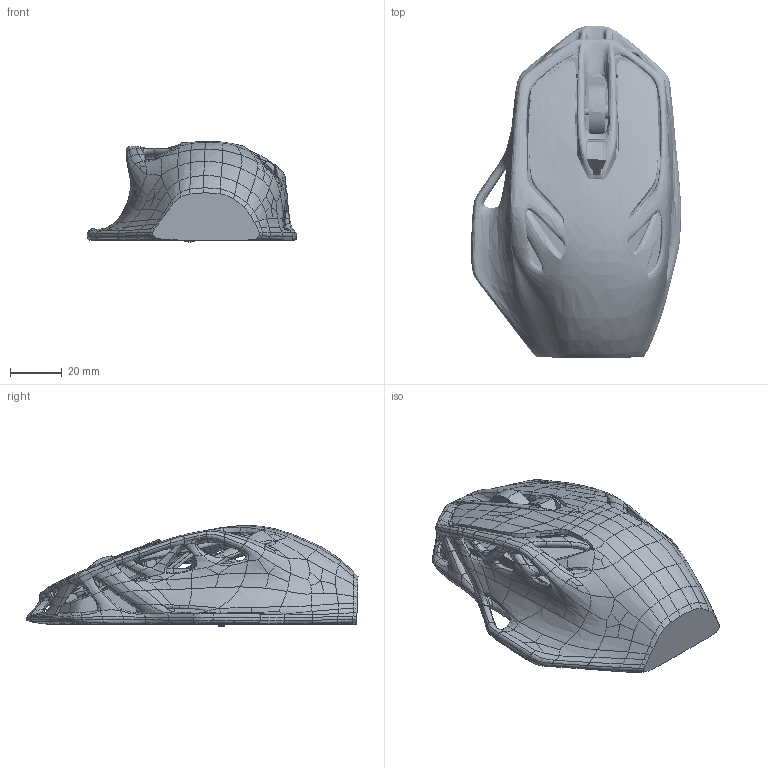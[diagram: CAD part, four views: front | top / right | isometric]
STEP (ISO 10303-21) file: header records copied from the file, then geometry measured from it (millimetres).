
FILE_DESCRIPTION(/* description */ (''),/* implementation_level */ '2;1');
FILE_NAME(/* name */ '总装',/* time_stamp */ '2024-05-13T14:54:25+08:00',/* author */ (''),/* organization */ (''),/* preprocessor_version */ 'ST-DEVELOPER v16.5',/* originating_system */ '',/* authorisation */ '');
FILE_SCHEMA (('CONFIG_CONTROL_DESIGN'));
Products named in the file (1): Document
Bounding box: 80.93 x 127.97 x 38.91 mm (x, y, z)
Volume: 89755.5 mm3; surface area: 82279.9 mm2
Topology: 22 solids, 22 shells, 4156 faces, 10225 edges, 6167 vertices
Faces by surface type: bspline 2049, plane 1589, cylinder 518
Entity records: 286023 total; most frequent: CARTESIAN_POINT 219332, ORIENTED_EDGE 20446, EDGE_CURVE 10223, B_SPLINE_CURVE_WITH_KNOTS 8725, VERTEX_POINT 6168, EDGE_LOOP 4337, ADVANCED_FACE 4152, FACE_OUTER_BOUND 4152
